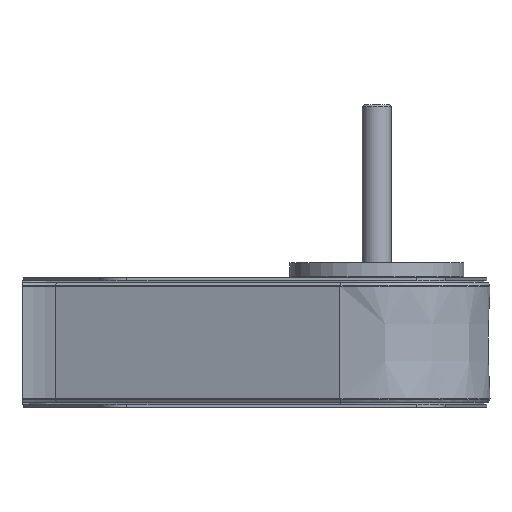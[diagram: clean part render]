
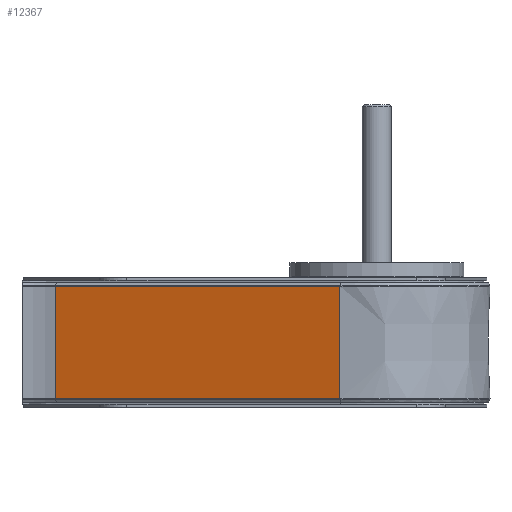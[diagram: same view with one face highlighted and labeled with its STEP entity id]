
A CAD part, front view. The second image highlights one B-rep face of the part: STEP entity #12367.
In plain terms, the highlighted planar face has unit normal (-0.326, -0.945, 0).
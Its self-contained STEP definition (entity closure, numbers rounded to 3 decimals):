
#348 = VERTEX_POINT ( 'NONE', #15612 ) ;
#386 = VERTEX_POINT ( 'NONE', #1386 ) ;
#1386 = CARTESIAN_POINT ( 'NONE',  ( -25.503, -73.856, -38.866 ) ) ;
#1731 = LINE ( 'NONE', #15755, #2009 ) ;
#2009 = VECTOR ( 'NONE', #3234, 1000. ) ;
#2539 = CARTESIAN_POINT ( 'NONE',  ( -221.462, -6.19, 38.866 ) ) ;
#2827 = ORIENTED_EDGE ( 'NONE', *, *, #14373, .T. ) ;
#3234 = DIRECTION ( 'NONE',  ( 0., 0., 1. ) ) ;
#3992 = DIRECTION ( 'NONE',  ( -0.945, 0.326, 0. ) ) ;
#4684 = CARTESIAN_POINT ( 'NONE',  ( -25.503, -73.856, 0. ) ) ;
#5009 = EDGE_CURVE ( 'NONE', #386, #21422, #15867, .T. ) ;
#5141 = LINE ( 'NONE', #19235, #19356 ) ;
#5710 = DIRECTION ( 'NONE',  ( 0.945, -0.326, 0. ) ) ;
#7039 = VECTOR ( 'NONE', #3992, 1000. ) ;
#7251 = CARTESIAN_POINT ( 'NONE',  ( -25.503, -73.856, 0. ) ) ;
#8033 = AXIS2_PLACEMENT_3D ( 'NONE', #7251, #19797, #5710 ) ;
#8187 = EDGE_CURVE ( 'NONE', #348, #21558, #1731, .T. ) ;
#9151 = ORIENTED_EDGE ( 'NONE', *, *, #8187, .F. ) ;
#11905 = FACE_OUTER_BOUND ( 'NONE', #12252, .T. ) ;
#12252 = EDGE_LOOP ( 'NONE', ( #20327, #2827, #9151, #17703 ) ) ;
#12367 = ADVANCED_FACE ( 'NONE', ( #11905 ), #21595, .T. ) ;
#14373 = EDGE_CURVE ( 'NONE', #21422, #21558, #18770, .T. ) ;
#15612 = CARTESIAN_POINT ( 'NONE',  ( -221.462, -6.19, -38.866 ) ) ;
#15755 = CARTESIAN_POINT ( 'NONE',  ( -221.462, -6.19, 0. ) ) ;
#15867 = LINE ( 'NONE', #4684, #19498 ) ;
#16111 = EDGE_CURVE ( 'NONE', #386, #348, #5141, .T. ) ;
#16493 = CARTESIAN_POINT ( 'NONE',  ( -25.503, -73.856, 38.866 ) ) ;
#17703 = ORIENTED_EDGE ( 'NONE', *, *, #16111, .F. ) ;
#18770 = LINE ( 'NONE', #16493, #7039 ) ;
#18779 = DIRECTION ( 'NONE',  ( 0., 0., 1. ) ) ;
#19235 = CARTESIAN_POINT ( 'NONE',  ( -25.503, -73.856, -38.866 ) ) ;
#19356 = VECTOR ( 'NONE', #22881, 1000. ) ;
#19498 = VECTOR ( 'NONE', #18779, 1000. ) ;
#19797 = DIRECTION ( 'NONE',  ( -0.326, -0.945, 0. ) ) ;
#19950 = CARTESIAN_POINT ( 'NONE',  ( -25.503, -73.856, 38.866 ) ) ;
#20327 = ORIENTED_EDGE ( 'NONE', *, *, #5009, .T. ) ;
#21422 = VERTEX_POINT ( 'NONE', #19950 ) ;
#21558 = VERTEX_POINT ( 'NONE', #2539 ) ;
#21595 = PLANE ( 'NONE',  #8033 ) ;
#22881 = DIRECTION ( 'NONE',  ( -0.945, 0.326, 0. ) ) ;
